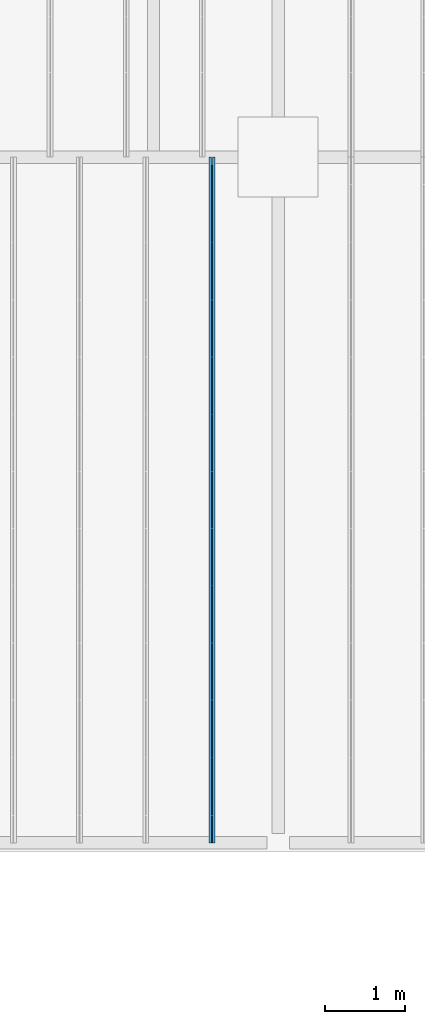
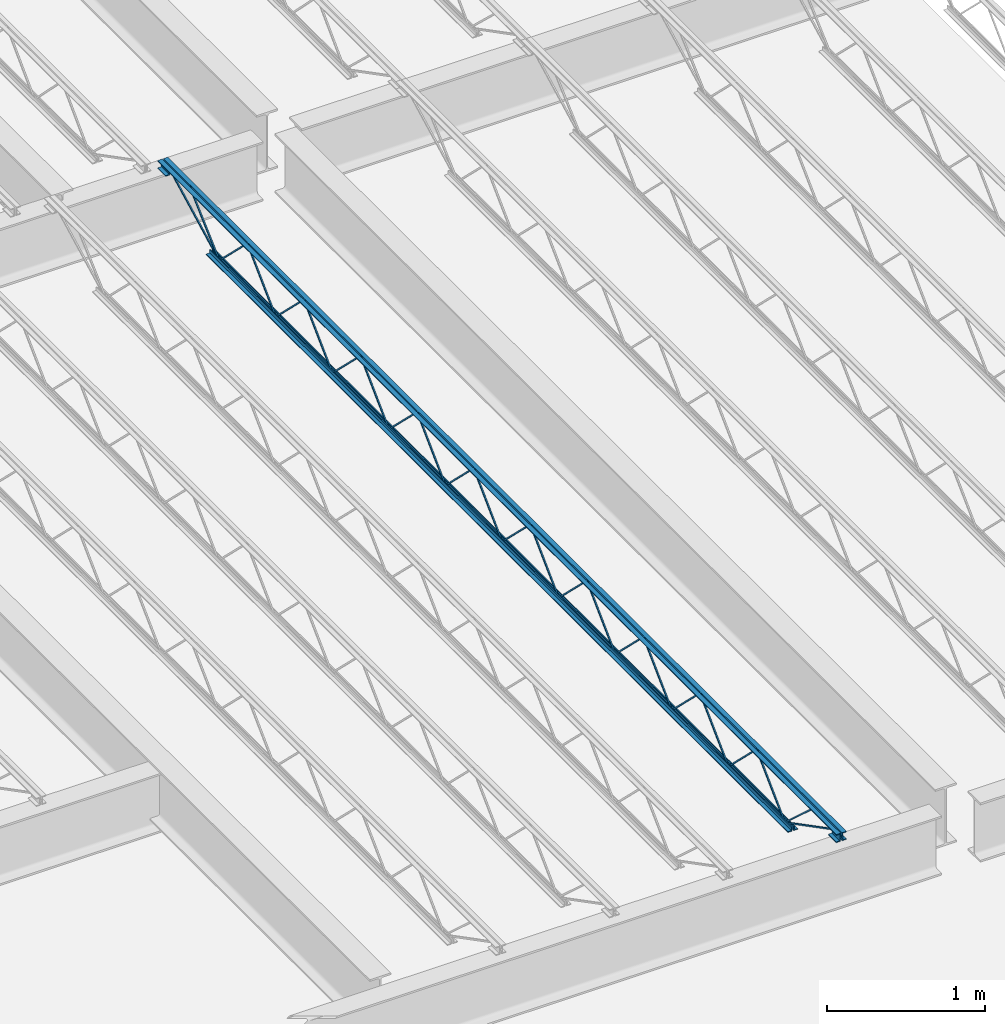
# One storey, part 32 of 75: 1 beam.
"""IFC2X3 building model written with IfcOpenShell, lengths in metres."""

from ifc_helpers import new_model, entity, si_unit, converted_unit, frame, origin, place, context, project, spatial, face_set, surface_model, element, save


model = new_model("IFC2X3")

# Units and contexts
model_context = context("Model", 3, precision=1e-09, world=origin())
plan_context = context("Plan", 3, precision=1e-09, world=origin())
ifc_project = project(units=[si_unit("LENGTHUNIT", "METRE"), si_unit("AREAUNIT", "SQUARE_METRE"), si_unit("VOLUMEUNIT", "CUBIC_METRE"), converted_unit("PLANEANGLEUNIT", "DEGREE", entity("IfcRatioMeasure", 0.01745329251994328), si_unit("PLANEANGLEUNIT", "RADIAN"), dimensions=[0, 0, 0, 0, 0, 0, 0]), si_unit("TIMEUNIT", "SECOND")], contexts=[model_context, plan_context])

# Site, building, storey
site_placement = place(None, origin())
site = spatial("IfcSite", under=ifc_project, at=site_placement, Name="Default", CompositionType="ELEMENT")
building_placement = place(site_placement, origin())
building = spatial("IfcBuilding", under=site, at=building_placement, CompositionType="ELEMENT")
storey_placement = place(building_placement, origin())
storey = spatial("IfcBuildingStorey", under=building, at=storey_placement, Name="First Floor", CompositionType="ELEMENT", Elevation=-3.531500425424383e-13)

# Beam
beam_placement = place(storey_placement, frame((-8.144361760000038, 10.03999999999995, 4.112000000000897)))
element("IfcBeam", 1, at=beam_placement, inside=storey, Name="M_K-Series Bar Joist-Rod Web:14K1:14K1", ObjectType="M_K-Series Bar Joist-Rod Web:14K1", context=model_context, shape_type="SurfaceModel", body=[
    surface_model("IfcFaceBasedSurfaceModel", [(0.04150000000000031, 6.428799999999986, 0.01110000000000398), (0.03200000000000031, 6.428799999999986, 0.01110000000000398), (0.03200000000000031, 6.428799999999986, 0.001600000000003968), (0.04150000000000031, 6.428799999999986, 0.001600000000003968), (0.03200000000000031, 6.430038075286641, 0.01110000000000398), (0.04150000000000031, 6.430038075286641, 0.01110000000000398), (0.03200000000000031, 6.433911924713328, 0.001600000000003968), (0.03200000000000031, 6.784861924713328, 0.3449000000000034), (0.03200000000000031, 6.78733807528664, 0.3449000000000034), (0.03200000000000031, 7.138288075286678, 0.001600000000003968), (0.03200000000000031, 7.143399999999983, 0.001600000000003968), (0.03200000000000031, 7.143399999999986, 0.01110000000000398), (0.03200000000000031, 7.142161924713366, 0.01110000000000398), (0.03200000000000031, 6.79121192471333, 0.3544000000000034), (0.03200000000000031, 6.780988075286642, 0.3544000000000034), (0.04150000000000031, 6.433911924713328, 0.001600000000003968), (0.04150000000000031, 6.784861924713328, 0.3449000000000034), (0.04150000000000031, 6.787338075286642, 0.3449000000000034), (0.04150000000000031, 7.138288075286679, 0.001600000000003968), (0.04150000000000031, 7.143399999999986, 0.001600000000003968), (0.04150000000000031, 7.143399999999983, 0.01110000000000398), (0.04150000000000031, 7.142161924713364, 0.01110000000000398), (0.04150000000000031, 6.791211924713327, 0.3544000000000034), (0.04150000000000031, 6.780988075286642, 0.3544000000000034), (0.04150000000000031, 5.714199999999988, 0.01110000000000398), (0.03200000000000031, 5.714199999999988, 0.01110000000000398), (0.03200000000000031, 5.714199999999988, 0.001600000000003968), (0.04150000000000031, 5.714199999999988, 0.001600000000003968), (0.03200000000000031, 5.715438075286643, 0.01110000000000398), (0.04150000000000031, 5.715438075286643, 0.01110000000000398), (0.03200000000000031, 5.71931192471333, 0.001600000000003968), (0.03200000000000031, 6.07026192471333, 0.3449000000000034), (0.03200000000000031, 6.072738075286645, 0.3449000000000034), (0.03200000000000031, 6.423688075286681, 0.001600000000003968), (0.03200000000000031, 6.428799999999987, 0.001600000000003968), (0.03200000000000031, 6.428799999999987, 0.01110000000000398), (0.03200000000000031, 6.427561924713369, 0.01110000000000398), (0.03200000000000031, 6.076611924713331, 0.3544000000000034), (0.03200000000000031, 6.066388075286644, 0.3544000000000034), (0.04150000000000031, 5.71931192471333, 0.001600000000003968), (0.04150000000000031, 6.07026192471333, 0.3449000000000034), (0.04150000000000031, 6.072738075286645, 0.3449000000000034), (0.04150000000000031, 6.423688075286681, 0.001600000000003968), (0.04150000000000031, 6.428799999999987, 0.001600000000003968), (0.04150000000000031, 6.428799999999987, 0.01110000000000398), (0.04150000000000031, 6.427561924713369, 0.01110000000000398), (0.04150000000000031, 6.076611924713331, 0.3544000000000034), (0.04150000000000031, 6.066388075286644, 0.3544000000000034), (0.04150000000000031, 4.999599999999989, 0.01110000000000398), (0.03200000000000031, 4.999599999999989, 0.01110000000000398), (0.03200000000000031, 4.999599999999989, 0.001600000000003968), (0.04150000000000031, 4.999599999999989, 0.001600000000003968), (0.03200000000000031, 5.000838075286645, 0.01110000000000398), (0.04150000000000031, 5.000838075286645, 0.01110000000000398), (0.03200000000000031, 5.004711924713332, 0.001600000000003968), (0.03200000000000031, 5.355661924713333, 0.3449000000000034), (0.03200000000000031, 5.358138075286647, 0.3449000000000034), (0.03200000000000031, 5.709088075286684, 0.001600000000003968), (0.03200000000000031, 5.714199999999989, 0.001600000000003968), (0.03200000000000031, 5.714199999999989, 0.01110000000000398), (0.03200000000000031, 5.712961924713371, 0.01110000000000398), (0.03200000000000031, 5.362011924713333, 0.3544000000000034), (0.03200000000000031, 5.351788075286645, 0.3544000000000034), (0.04150000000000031, 5.004711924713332, 0.001600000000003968), (0.04150000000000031, 5.355661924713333, 0.3449000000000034), (0.04150000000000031, 5.358138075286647, 0.3449000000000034), (0.04150000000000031, 5.709088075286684, 0.001600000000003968), (0.04150000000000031, 5.714199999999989, 0.001600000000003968), (0.04150000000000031, 5.714199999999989, 0.01110000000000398), (0.04150000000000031, 5.712961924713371, 0.01110000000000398), (0.04150000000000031, 5.362011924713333, 0.3544000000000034), (0.04150000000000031, 5.351788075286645, 0.3544000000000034), (0.04150000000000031, 4.284999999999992, 0.01110000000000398), (0.03200000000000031, 4.284999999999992, 0.01110000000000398), (0.03200000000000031, 4.284999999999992, 0.001600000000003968), (0.04150000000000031, 4.284999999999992, 0.001600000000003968), (0.03200000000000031, 4.286238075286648, 0.01110000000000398), (0.04150000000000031, 4.286238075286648, 0.01110000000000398), (0.03200000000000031, 4.290111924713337, 0.001600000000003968), (0.03200000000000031, 4.641061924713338, 0.3449000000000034), (0.03200000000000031, 4.643538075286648, 0.3449000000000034), (0.03200000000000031, 4.994488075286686, 0.001600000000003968), (0.03200000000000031, 4.999599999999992, 0.001600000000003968), (0.03200000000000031, 4.999599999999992, 0.01110000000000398), (0.03200000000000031, 4.998361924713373, 0.01110000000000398), (0.03200000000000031, 4.647411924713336, 0.3544000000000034), (0.03200000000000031, 4.637188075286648, 0.3544000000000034), (0.04150000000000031, 4.290111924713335, 0.001600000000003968), (0.04150000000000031, 4.641061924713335, 0.3449000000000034), (0.04150000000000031, 4.643538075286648, 0.3449000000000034), (0.04150000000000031, 4.994488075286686, 0.001600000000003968), (0.04150000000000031, 4.999599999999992, 0.001600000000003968), (0.04150000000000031, 4.999599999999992, 0.01110000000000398), (0.04150000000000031, 4.998361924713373, 0.01110000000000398), (0.04150000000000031, 4.647411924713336, 0.3544000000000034), (0.04150000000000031, 4.637188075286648, 0.3544000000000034), (0.04150000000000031, 3.570399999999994, 0.01110000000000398), (0.03200000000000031, 3.570399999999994, 0.01110000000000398), (0.03200000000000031, 3.570399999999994, 0.001600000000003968), (0.04150000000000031, 3.570399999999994, 0.001600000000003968), (0.03200000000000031, 3.57163807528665, 0.01110000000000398), (0.04150000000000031, 3.57163807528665, 0.01110000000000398), (0.03200000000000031, 3.575511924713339, 0.001600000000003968), (0.03200000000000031, 3.926461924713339, 0.3449000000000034), (0.03200000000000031, 3.928938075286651, 0.3449000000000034), (0.03200000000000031, 4.279888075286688, 0.001600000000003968), (0.03200000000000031, 4.284999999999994, 0.001600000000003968), (0.03200000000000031, 4.284999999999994, 0.01110000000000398), (0.03200000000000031, 4.283761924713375, 0.01110000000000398), (0.03200000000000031, 3.932811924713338, 0.3544000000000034), (0.03200000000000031, 3.92258807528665, 0.3544000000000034), (0.04150000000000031, 3.575511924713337, 0.001600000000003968), (0.04150000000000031, 3.926461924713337, 0.3449000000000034), (0.04150000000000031, 3.928938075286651, 0.3449000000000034), (0.04150000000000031, 4.279888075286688, 0.001600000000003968), (0.04150000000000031, 4.284999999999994, 0.001600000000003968), (0.04150000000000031, 4.284999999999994, 0.01110000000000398), (0.04150000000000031, 4.283761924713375, 0.01110000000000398), (0.04150000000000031, 3.93281192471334, 0.3544000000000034), (0.04150000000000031, 3.922588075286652, 0.3544000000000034), (0.04150000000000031, 2.855799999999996, 0.01110000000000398), (0.03200000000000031, 2.855799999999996, 0.01110000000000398), (0.03200000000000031, 2.855799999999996, 0.001600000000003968), (0.04150000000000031, 2.855799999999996, 0.001600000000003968), (0.03200000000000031, 2.857038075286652, 0.01110000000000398), (0.04150000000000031, 2.857038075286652, 0.01110000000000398), (0.03200000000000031, 2.860911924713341, 0.001600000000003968), (0.03200000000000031, 3.211861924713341, 0.3449000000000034), (0.03200000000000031, 3.214338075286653, 0.3449000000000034), (0.03200000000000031, 3.56528807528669, 0.001600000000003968), (0.03200000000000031, 3.570399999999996, 0.001600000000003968), (0.03200000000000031, 3.570399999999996, 0.01110000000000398), (0.03200000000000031, 3.569161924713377, 0.01110000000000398), (0.03200000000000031, 3.21821192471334, 0.3544000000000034), (0.03200000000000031, 3.207988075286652, 0.3544000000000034), (0.04150000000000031, 2.860911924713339, 0.001600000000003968), (0.04150000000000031, 3.21186192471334, 0.3449000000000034), (0.04150000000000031, 3.214338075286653, 0.3449000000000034), (0.04150000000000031, 3.56528807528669, 0.001600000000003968), (0.04150000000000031, 3.570399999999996, 0.001600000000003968), (0.04150000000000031, 3.570399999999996, 0.01110000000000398), (0.04150000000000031, 3.569161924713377, 0.01110000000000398), (0.04150000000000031, 3.218211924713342, 0.3544000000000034), (0.04150000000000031, 3.207988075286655, 0.3544000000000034), (0.04150000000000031, 2.1412, 0.01110000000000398), (0.03200000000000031, 2.1412, 0.01110000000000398), (0.03200000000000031, 2.1412, 0.001600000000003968), (0.04150000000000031, 2.1412, 0.001600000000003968), (0.03200000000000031, 2.142438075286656, 0.01110000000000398), (0.04150000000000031, 2.142438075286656, 0.01110000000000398), (0.03200000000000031, 2.146311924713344, 0.001600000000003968), (0.03200000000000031, 2.497261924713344, 0.3449000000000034), (0.03200000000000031, 2.499738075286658, 0.3449000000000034), (0.03200000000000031, 2.850688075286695, 0.001600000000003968), (0.03200000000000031, 2.8558, 0.001600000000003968), (0.03200000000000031, 2.8558, 0.01110000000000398), (0.03200000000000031, 2.854561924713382, 0.01110000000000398), (0.03200000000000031, 2.503611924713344, 0.3544000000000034), (0.03200000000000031, 2.493388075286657, 0.3544000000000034), (0.04150000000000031, 2.146311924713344, 0.001600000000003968), (0.04150000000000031, 2.497261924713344, 0.3449000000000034), (0.04150000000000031, 2.499738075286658, 0.3449000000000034), (0.04150000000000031, 2.850688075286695, 0.001600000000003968), (0.04150000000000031, 2.8558, 0.001600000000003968), (0.04150000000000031, 2.8558, 0.01110000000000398), (0.04150000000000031, 2.854561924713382, 0.01110000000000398), (0.04150000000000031, 2.503611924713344, 0.3544000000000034), (0.04150000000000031, 2.493388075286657, 0.3544000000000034), (0.04150000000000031, 1.426600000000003, 0.01110000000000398), (0.03200000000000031, 1.426600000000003, 0.01110000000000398), (0.03200000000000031, 1.426600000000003, 0.001600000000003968), (0.04150000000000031, 1.426600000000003, 0.001600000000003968), (0.03200000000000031, 1.427838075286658, 0.01110000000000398), (0.04150000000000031, 1.427838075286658, 0.01110000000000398), (0.03200000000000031, 1.431711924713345, 0.001600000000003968), (0.03200000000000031, 1.782661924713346, 0.3449000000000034), (0.03200000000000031, 1.78513807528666, 0.3449000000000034), (0.03200000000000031, 2.136088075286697, 0.001600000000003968), (0.03200000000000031, 2.141200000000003, 0.001600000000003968), (0.03200000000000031, 2.141200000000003, 0.01110000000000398), (0.03200000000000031, 2.139961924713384, 0.01110000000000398), (0.03200000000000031, 1.789011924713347, 0.3544000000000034), (0.03200000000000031, 1.778788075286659, 0.3544000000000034), (0.04150000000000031, 1.431711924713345, 0.001600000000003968), (0.04150000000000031, 1.782661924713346, 0.3449000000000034), (0.04150000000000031, 1.78513807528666, 0.3449000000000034), (0.04150000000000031, 2.136088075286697, 0.001600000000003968), (0.04150000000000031, 2.141200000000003, 0.001600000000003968), (0.04150000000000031, 2.141200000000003, 0.01110000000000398), (0.04150000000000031, 2.139961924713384, 0.01110000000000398), (0.04150000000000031, 1.789011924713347, 0.3544000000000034), (0.04150000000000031, 1.778788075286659, 0.3544000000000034), (0.0415000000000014, 7.143399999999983, 0.01109999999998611), (0.03200000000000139, 7.143399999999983, 0.01109999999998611), (0.03200000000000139, 7.143399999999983, 0.0015999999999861), (0.0415000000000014, 7.143399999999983, 0.0015999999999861), (0.03200000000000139, 7.144638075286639, 0.01109999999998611), (0.0415000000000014, 7.144638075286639, 0.01109999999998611), (0.03200000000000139, 7.148511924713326, 0.0015999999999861), (0.03200000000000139, 7.499461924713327, 0.3448999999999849), (0.03200000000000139, 7.501938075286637, 0.3448999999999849), (0.03200000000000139, 7.852888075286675, 0.0015999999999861), (0.03200000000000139, 7.857999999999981, 0.0015999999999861), (0.03200000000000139, 7.857999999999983, 0.01109999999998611), (0.03200000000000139, 7.856761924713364, 0.01109999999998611), (0.03200000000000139, 7.505811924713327, 0.354399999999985), (0.03200000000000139, 7.495588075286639, 0.354399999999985), (0.0415000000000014, 7.148511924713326, 0.0015999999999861), (0.0415000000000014, 7.499461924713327, 0.3448999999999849), (0.0415000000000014, 7.50193807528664, 0.3448999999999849), (0.0415000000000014, 7.852888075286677, 0.0015999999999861), (0.0415000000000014, 7.857999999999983, 0.0015999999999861), (0.0415000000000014, 7.857999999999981, 0.01109999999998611), (0.0415000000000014, 7.856761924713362, 0.01109999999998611), (0.0415000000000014, 7.505811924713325, 0.354399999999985), (0.0415000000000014, 7.495588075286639, 0.354399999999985), (0.04150000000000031, 0.712000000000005, 0.01110000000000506), (0.03200000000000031, 0.712000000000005, 0.01110000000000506), (0.03200000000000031, 0.712000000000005, 0.001600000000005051), (0.04150000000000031, 0.712000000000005, 0.001600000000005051), (0.03200000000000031, 0.7132380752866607, 0.01110000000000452), (0.04150000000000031, 0.7132380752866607, 0.01110000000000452), (0.03200000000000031, 0.7171119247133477, 0.001600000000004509), (0.03200000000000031, 1.068061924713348, 0.3449000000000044), (0.03200000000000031, 1.070538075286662, 0.3449000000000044), (0.03200000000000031, 1.421488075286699, 0.001600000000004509), (0.03200000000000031, 1.426600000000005, 0.001600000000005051), (0.03200000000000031, 1.426600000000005, 0.01110000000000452), (0.03200000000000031, 1.425361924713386, 0.01110000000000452), (0.03200000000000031, 1.074411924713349, 0.3544000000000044), (0.03200000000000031, 1.064188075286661, 0.3544000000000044), (0.04150000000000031, 0.7171119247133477, 0.001600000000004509), (0.04150000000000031, 1.068061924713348, 0.3449000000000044), (0.04150000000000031, 1.070538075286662, 0.3449000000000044), (0.04150000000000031, 1.421488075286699, 0.001600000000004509), (0.04150000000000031, 1.426600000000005, 0.001600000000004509), (0.04150000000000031, 1.426600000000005, 0.01110000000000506), (0.04150000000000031, 1.425361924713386, 0.01110000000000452), (0.04150000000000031, 1.074411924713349, 0.3544000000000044), (0.04150000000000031, 1.064188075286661, 0.3544000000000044), (0.03200000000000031, 8.57, 0.3559999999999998), (0.0, 8.57, 0.3559999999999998), (0.0, 8.57, 0.349499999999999), (0.02549999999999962, 8.57, 0.349499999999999), (0.02549999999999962, 8.57, 0.3239999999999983), (0.03200000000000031, 8.57, 0.3239999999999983), (0.04150000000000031, 8.57, 0.3559999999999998), (0.04150000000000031, 8.57, 0.3239999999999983), (0.04799999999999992, 8.57, 0.3239999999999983), (0.04799999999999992, 8.57, 0.349499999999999), (0.07350000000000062, 8.57, 0.349499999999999), (0.07350000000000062, 8.57, 0.3559999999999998), (0.03200000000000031, 0.0, 0.3559999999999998), (0.0, 0.0, 0.3559999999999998), (0.0, 0.0, 0.349499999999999), (0.02549999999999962, 0.0, 0.349499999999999), (0.02549999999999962, 0.0, 0.3239999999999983), (0.03200000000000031, 0.0, 0.3239999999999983), (0.04150000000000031, 0.0, 0.3559999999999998), (0.04150000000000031, 0.0, 0.3239999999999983), (0.04799999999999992, 0.0, 0.3239999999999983), (0.04799999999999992, 0.0, 0.349499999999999), (0.07350000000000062, 0.0, 0.349499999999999), (0.07350000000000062, 0.0, 0.3559999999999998), (0.04150000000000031, 0.09999999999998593, 0.2924999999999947), (0.07350000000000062, 0.09999999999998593, 0.2924999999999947), (0.07350000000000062, 0.09999999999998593, 0.2989999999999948), (0.04799999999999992, 0.09999999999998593, 0.2989999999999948), (0.04799999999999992, 0.09999999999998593, 0.3239999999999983), (0.04150000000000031, 0.09999999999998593, 0.3239999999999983), (0.0, 0.09999999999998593, 0.2924999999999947), (0.03200000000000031, 0.09999999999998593, 0.2924999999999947), (0.03200000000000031, 0.09999999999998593, 0.3239999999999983), (0.0255000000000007, 0.09999999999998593, 0.3239999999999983), (0.0255000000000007, 0.09999999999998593, 0.2989999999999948), (0.0, 0.09999999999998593, 0.2989999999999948), (0.04150000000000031, 0.0, 0.2924999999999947), (0.07350000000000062, 0.0, 0.2924999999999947), (0.07350000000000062, 0.0, 0.2989999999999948), (0.04799999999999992, 0.0, 0.2989999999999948), (0.0, 0.0, 0.2924999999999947), (0.03200000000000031, 0.0, 0.2924999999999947), (0.0255000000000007, 0.0, 0.3239999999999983), (0.0255000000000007, 0.0, 0.2989999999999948), (0.0, 0.0, 0.2989999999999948), (0.03199999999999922, 8.57, 0.2924999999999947), (0.03199999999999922, 8.57, 0.3239999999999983), (0.02549999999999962, 8.57, 0.2989999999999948), (0.0, 8.57, 0.2989999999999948), (0.0, 8.57, 0.2924999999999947), (0.04149999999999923, 8.57, 0.2924999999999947), (0.07349999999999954, 8.57, 0.2924999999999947), (0.07349999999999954, 8.57, 0.2989999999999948), (0.04799999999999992, 8.57, 0.2989999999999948), (0.04149999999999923, 8.57, 0.3239999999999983), (0.03199999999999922, 8.47, 0.2924999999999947), (0.03199999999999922, 8.47, 0.3239999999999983), (0.02549999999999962, 8.47, 0.3239999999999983), (0.02549999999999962, 8.47, 0.2989999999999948), (0.0, 8.47, 0.2989999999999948), (0.0, 8.47, 0.2924999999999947), (0.04149999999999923, 8.47, 0.2924999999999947), (0.07349999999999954, 8.47, 0.2924999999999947), (0.07349999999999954, 8.47, 0.2989999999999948), (0.04799999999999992, 8.47, 0.2989999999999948), (0.04799999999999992, 8.47, 0.3239999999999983), (0.04149999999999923, 8.47, 0.3239999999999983), (0.03200000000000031, 7.958000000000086, 0.0), (0.03200000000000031, 7.958000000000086, 0.03199999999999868), (0.0255000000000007, 7.958000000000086, 0.03199999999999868), (0.0255000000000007, 7.958000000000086, 0.006499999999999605), (0.0, 7.958000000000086, 0.006499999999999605), (0.0, 7.958000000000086, 0.0), (0.04150000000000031, 7.958000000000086, 0.0), (0.07350000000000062, 7.958000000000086, 0.0), (0.07350000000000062, 7.958000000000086, 0.006499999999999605), (0.04799999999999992, 7.958000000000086, 0.006499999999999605), (0.04799999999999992, 7.958000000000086, 0.03199999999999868), (0.04150000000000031, 7.958000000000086, 0.03199999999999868), (0.03200000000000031, 0.6120000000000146, 0.0), (0.03200000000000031, 0.6120000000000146, 0.03199999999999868), (0.0255000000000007, 0.6120000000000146, 0.03199999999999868), (0.0255000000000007, 0.6120000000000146, 0.006499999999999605), (0.0, 0.6120000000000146, 0.006499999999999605), (0.0, 0.6120000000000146, 0.0), (0.04150000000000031, 0.6120000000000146, 0.0), (0.07350000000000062, 0.6120000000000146, 0.0), (0.07350000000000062, 0.6120000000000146, 0.006499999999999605), (0.04799999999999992, 0.6120000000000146, 0.006499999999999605), (0.04799999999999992, 0.6120000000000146, 0.03199999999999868), (0.04150000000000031, 0.6120000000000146, 0.03199999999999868), (0.04150000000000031, 0.7141882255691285, 0.01056594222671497), (0.03200000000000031, 0.7141882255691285, 0.01056594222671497), (0.03200000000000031, 0.7098117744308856, 0.002134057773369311), (0.04150000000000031, 0.7098117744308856, 0.002134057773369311), (0.04150000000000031, 0.1011592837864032, 0.3287499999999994), (0.04150000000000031, 0.0, 0.3287499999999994), (0.04150000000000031, 0.0, 0.3192499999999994), (0.04150000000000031, 0.09884071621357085, 0.3192499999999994), (0.03200000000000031, 0.09884071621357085, 0.3192499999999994), (0.03200000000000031, 0.1011592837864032, 0.3287499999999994), (0.03200000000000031, 0.0, 0.3287499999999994), (0.03200000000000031, 0.0, 0.3192499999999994), (0.04150000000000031, 0.3347428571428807, 0.341700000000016), (0.03200000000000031, 0.3347428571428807, 0.341700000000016), (0.03200000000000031, 0.3347428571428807, 0.332200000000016), (0.04150000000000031, 0.3347428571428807, 0.332200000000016), (0.03200000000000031, 0.349275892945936, 0.341700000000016), (0.04150000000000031, 0.349275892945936, 0.341700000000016), (0.03200000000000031, 0.3456098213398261, 0.332200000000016), (0.03200000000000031, 0.7088091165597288, 0.002831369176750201), (0.03200000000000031, 0.7151908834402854, 0.009868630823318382), (0.04150000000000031, 0.3456098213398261, 0.332200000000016), (0.04150000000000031, 0.7088091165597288, 0.002831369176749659), (0.04150000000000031, 0.7151908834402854, 0.009868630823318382), (0.04150000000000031, 8.472188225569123, 0.3197840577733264), (0.04150000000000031, 8.467811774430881, 0.3282159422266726), (0.03200000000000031, 8.467811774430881, 0.3282159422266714), (0.03200000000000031, 8.472188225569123, 0.3197840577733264), (0.04150000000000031, 7.860188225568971, 0.002134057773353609), (0.04150000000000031, 7.855811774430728, 0.01056594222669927), (0.03200000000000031, 7.855811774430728, 0.01056594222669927), (0.03200000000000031, 7.860188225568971, 0.002134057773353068), (0.04150000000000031, 8.233036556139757, 0.3461600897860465), (0.04150000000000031, 8.22659201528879, 0.3531399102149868), (0.03200000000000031, 8.22659201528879, 0.3531399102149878), (0.03200000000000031, 8.233036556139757, 0.3461600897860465), (0.04150000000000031, 7.861222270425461, 0.002860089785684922), (0.04150000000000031, 7.854777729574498, 0.009839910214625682), (0.03200000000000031, 7.854777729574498, 0.009839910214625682), (0.03200000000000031, 7.861222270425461, 0.002860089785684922)], [face_set([[[0, 1, 2, 3]], [[1, 4, 5, 0]], [[2, 6, 7, 8, 9, 10, 11, 12, 13, 14, 4, 1]], [[3, 2, 6, 15]], [[0, 3, 15, 16, 17, 18, 19, 20, 21, 22, 23, 5]], [[4, 5, 23, 14]], [[15, 16, 7, 6]], [[14, 13, 22, 23]], [[16, 7, 8, 17]], [[13, 12, 21, 22]], [[17, 8, 9, 18]], [[20, 11, 10, 19]], [[12, 11, 20, 21]], [[18, 9, 10, 19]]]), face_set([[[24, 25, 26, 27]], [[25, 28, 29, 24]], [[26, 30, 31, 32, 33, 34, 35, 36, 37, 38, 28, 25]], [[27, 26, 30, 39]], [[24, 27, 39, 40, 41, 42, 43, 44, 45, 46, 47, 29]], [[28, 29, 47, 38]], [[39, 40, 31, 30]], [[38, 37, 46, 47]], [[40, 31, 32, 41]], [[37, 36, 45, 46]], [[41, 32, 33, 42]], [[44, 35, 34, 43]], [[36, 35, 44, 45]], [[42, 33, 34, 43]]]), face_set([[[48, 49, 50, 51]], [[49, 52, 53, 48]], [[50, 54, 55, 56, 57, 58, 59, 60, 61, 62, 52, 49]], [[51, 50, 54, 63]], [[48, 51, 63, 64, 65, 66, 67, 68, 69, 70, 71, 53]], [[52, 53, 71, 62]], [[63, 64, 55, 54]], [[62, 61, 70, 71]], [[64, 55, 56, 65]], [[61, 60, 69, 70]], [[65, 56, 57, 66]], [[68, 59, 58, 67]], [[60, 59, 68, 69]], [[66, 57, 58, 67]]]), face_set([[[72, 73, 74, 75]], [[73, 76, 77, 72]], [[74, 78, 79, 80, 81, 82, 83, 84, 85, 86, 76, 73]], [[75, 74, 78, 87]], [[72, 75, 87, 88, 89, 90, 91, 92, 93, 94, 95, 77]], [[76, 77, 95, 86]], [[87, 88, 79, 78]], [[86, 85, 94, 95]], [[88, 79, 80, 89]], [[85, 84, 93, 94]], [[89, 80, 81, 90]], [[92, 83, 82, 91]], [[84, 83, 92, 93]], [[90, 81, 82, 91]]]), face_set([[[96, 97, 98, 99]], [[97, 100, 101, 96]], [[98, 102, 103, 104, 105, 106, 107, 108, 109, 110, 100, 97]], [[99, 98, 102, 111]], [[96, 99, 111, 112, 113, 114, 115, 116, 117, 118, 119, 101]], [[100, 101, 119, 110]], [[111, 112, 103, 102]], [[110, 109, 118, 119]], [[112, 103, 104, 113]], [[109, 108, 117, 118]], [[113, 104, 105, 114]], [[116, 107, 106, 115]], [[108, 107, 116, 117]], [[114, 105, 106, 115]]]), face_set([[[120, 121, 122, 123]], [[121, 124, 125, 120]], [[122, 126, 127, 128, 129, 130, 131, 132, 133, 134, 124, 121]], [[123, 122, 126, 135]], [[120, 123, 135, 136, 137, 138, 139, 140, 141, 142, 143, 125]], [[124, 125, 143, 134]], [[135, 136, 127, 126]], [[134, 133, 142, 143]], [[136, 127, 128, 137]], [[133, 132, 141, 142]], [[137, 128, 129, 138]], [[140, 131, 130, 139]], [[132, 131, 140, 141]], [[138, 129, 130, 139]]]), face_set([[[144, 145, 146, 147]], [[145, 148, 149, 144]], [[146, 150, 151, 152, 153, 154, 155, 156, 157, 158, 148, 145]], [[147, 146, 150, 159]], [[144, 147, 159, 160, 161, 162, 163, 164, 165, 166, 167, 149]], [[148, 149, 167, 158]], [[159, 160, 151, 150]], [[158, 157, 166, 167]], [[160, 151, 152, 161]], [[157, 156, 165, 166]], [[161, 152, 153, 162]], [[164, 155, 154, 163]], [[156, 155, 164, 165]], [[162, 153, 154, 163]]]), face_set([[[168, 169, 170, 171]], [[169, 172, 173, 168]], [[170, 174, 175, 176, 177, 178, 179, 180, 181, 182, 172, 169]], [[171, 170, 174, 183]], [[168, 171, 183, 184, 185, 186, 187, 188, 189, 190, 191, 173]], [[172, 173, 191, 182]], [[183, 184, 175, 174]], [[182, 181, 190, 191]], [[184, 175, 176, 185]], [[181, 180, 189, 190]], [[185, 176, 177, 186]], [[188, 179, 178, 187]], [[180, 179, 188, 189]], [[186, 177, 178, 187]]]), face_set([[[192, 193, 194, 195]], [[193, 196, 197, 192]], [[194, 198, 199, 200, 201, 202, 203, 204, 205, 206, 196, 193]], [[195, 194, 198, 207]], [[192, 195, 207, 208, 209, 210, 211, 212, 213, 214, 215, 197]], [[196, 197, 215, 206]], [[207, 208, 199, 198]], [[206, 205, 214, 215]], [[208, 199, 200, 209]], [[205, 204, 213, 214]], [[209, 200, 201, 210]], [[212, 203, 202, 211]], [[204, 203, 212, 213]], [[210, 201, 202, 211]]]), face_set([[[216, 217, 218, 219]], [[217, 220, 221, 216]], [[218, 222, 223, 224, 225, 226, 227, 228, 229, 230, 220, 217]], [[219, 218, 222, 231]], [[216, 219, 231, 232, 233, 234, 235, 236, 237, 238, 239, 221]], [[220, 221, 239, 230]], [[231, 232, 223, 222]], [[230, 229, 238, 239]], [[232, 223, 224, 233]], [[229, 228, 237, 238]], [[233, 224, 225, 234]], [[236, 227, 226, 235]], [[228, 227, 236, 237]], [[234, 225, 226, 235]]]), face_set([[[240, 241, 242, 243, 244, 245]], [[246, 247, 248, 249, 250, 251]], [[252, 253, 254, 255, 256, 257]], [[258, 259, 260, 261, 262, 263]], [[245, 240, 252, 257]], [[244, 245, 257, 256]], [[243, 255, 256, 244]], [[242, 243, 255, 254]], [[241, 253, 254, 242]], [[240, 252, 253, 241]], [[251, 263, 258, 246]], [[250, 251, 263, 262]], [[249, 250, 262, 261]], [[248, 249, 261, 260]], [[247, 248, 260, 259]], [[246, 258, 259, 247]]]), face_set([[[264, 265, 266, 267, 268, 269]], [[270, 271, 272, 273, 274, 275]], [[276, 277, 278, 279, 260, 259]], [[280, 281, 257, 282, 283, 284]], [[269, 259, 276, 264]], [[268, 260, 259, 269]], [[267, 268, 260, 279]], [[266, 278, 279, 267]], [[265, 266, 278, 277]], [[264, 265, 277, 276]], [[275, 284, 280, 270]], [[274, 283, 284, 275]], [[273, 282, 283, 274]], [[272, 257, 282, 273]], [[271, 272, 257, 281]], [[270, 271, 281, 280]]]), face_set([[[285, 286, 244, 287, 288, 289]], [[290, 291, 292, 293, 248, 294]], [[295, 296, 297, 298, 299, 300]], [[301, 302, 303, 304, 305, 306]], [[289, 285, 295, 300]], [[288, 299, 300, 289]], [[287, 298, 299, 288]], [[244, 297, 298, 287]], [[286, 296, 297, 244]], [[285, 286, 296, 295]], [[294, 306, 301, 290]], [[248, 305, 306, 294]], [[293, 248, 305, 304]], [[292, 303, 304, 293]], [[291, 292, 303, 302]], [[290, 291, 302, 301]]]), face_set([[[307, 308, 309, 310, 311, 312]], [[313, 314, 315, 316, 317, 318]], [[319, 320, 321, 322, 323, 324]], [[325, 326, 327, 328, 329, 330]], [[312, 307, 319, 324]], [[311, 323, 324, 312]], [[310, 322, 323, 311]], [[309, 321, 322, 310]], [[308, 320, 321, 309]], [[307, 308, 320, 319]], [[318, 330, 325, 313]], [[317, 329, 330, 318]], [[316, 317, 329, 328]], [[315, 327, 328, 316]], [[314, 315, 327, 326]], [[313, 314, 326, 325]]]), face_set([[[331, 332, 333, 334]], [[334, 331, 335, 336, 337, 338]], [[333, 334, 338, 339]], [[332, 340, 341, 342, 339, 333]], [[331, 335, 340, 332]], [[336, 341, 342, 337]], [[339, 338, 337, 342]], [[335, 336, 341, 340]]]), face_set([[[343, 344, 345, 346]], [[344, 347, 348, 343]], [[345, 349, 350, 351, 347, 344]], [[346, 345, 349, 352]], [[343, 346, 352, 353, 354, 348]], [[354, 351, 350, 353]], [[347, 351, 354, 348]], [[352, 349, 350, 353]]]), face_set([[[355, 356, 357, 358]], [[359, 360, 361, 362]], [[358, 362, 359, 355]], [[357, 361, 362, 358]], [[356, 357, 361, 360]], [[355, 356, 360, 359]]]), face_set([[[363, 364, 365, 366]], [[367, 368, 369, 370]], [[366, 370, 367, 363]], [[365, 369, 370, 366]], [[364, 365, 369, 368]], [[363, 364, 368, 367]]])]),
])

save(model, "model.ifc")
